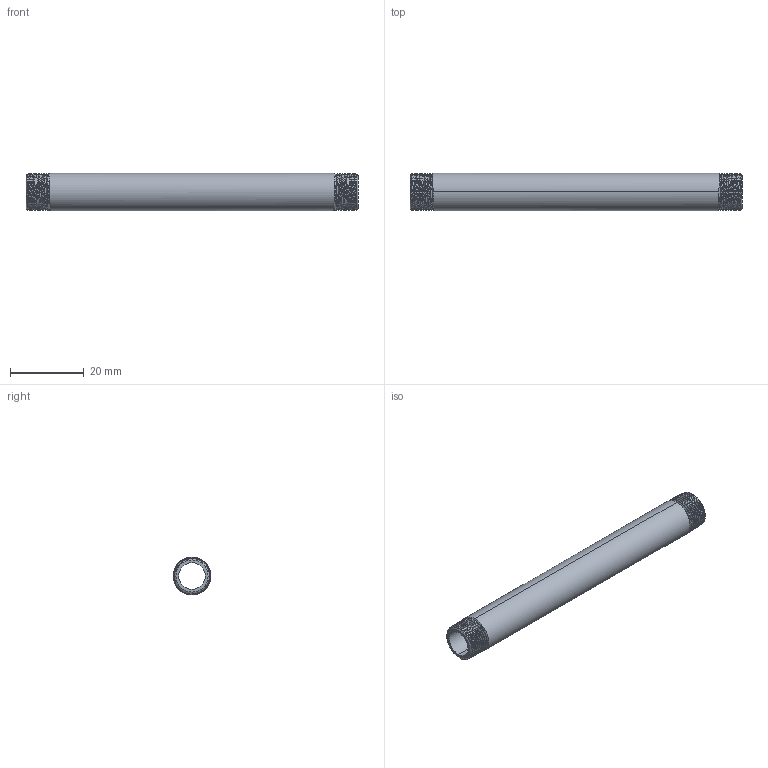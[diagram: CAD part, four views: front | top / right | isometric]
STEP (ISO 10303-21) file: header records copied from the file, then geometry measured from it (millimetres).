
FILE_DESCRIPTION (( 'STEP AP203' ), '1' );
FILE_NAME ('3D_R210_1-8x90_17185752.STEP', '2024-08-16T11:23:52', ( '' ), ( '' ), 'SwSTEP 2.0', 'SolidWorks 2024', '' );
FILE_SCHEMA (( 'CONFIG_CONTROL_DESIGN' ));
Length unit declared in the file: millimetre
Products named in the file (1): 3D_R210_1-8x90_17185752
Bounding box: 90 x 10.2 x 10.2 mm (x, y, z)
Volume: 3600.7 mm3; surface area: 5133 mm2
Topology: 1 solids, 1 shells, 54 faces, 150 edges, 98 vertices
Faces by surface type: cone 40, bspline 6, cylinder 4, plane 4
Entity records: 6878 total; most frequent: CARTESIAN_POINT 5622, ORIENTED_EDGE 300, DIRECTION 166, EDGE_CURVE 150, VERTEX_POINT 98, B_SPLINE_CURVE_WITH_KNOTS 86, AXIS2_PLACEMENT_3D 61, EDGE_LOOP 56
